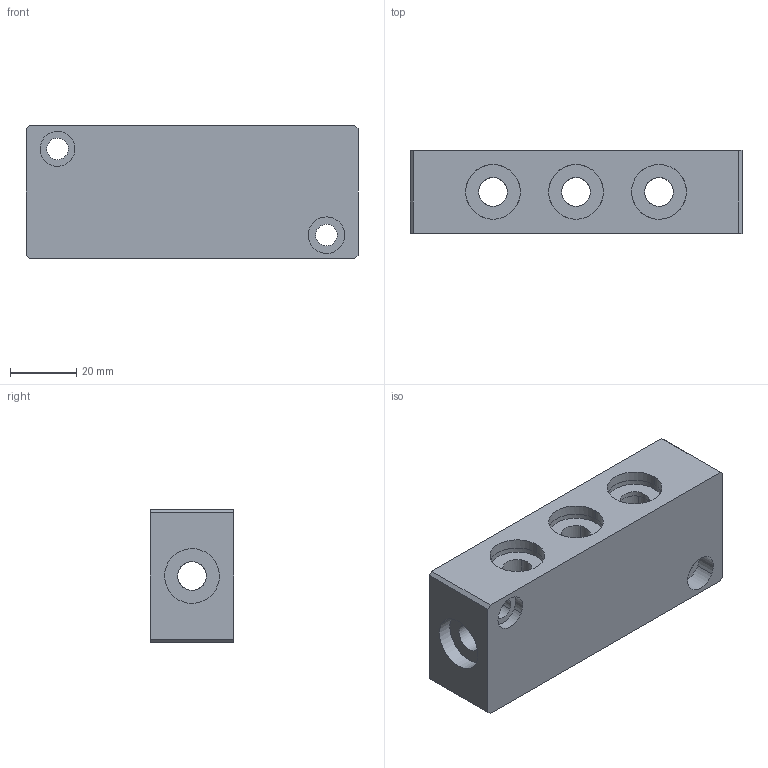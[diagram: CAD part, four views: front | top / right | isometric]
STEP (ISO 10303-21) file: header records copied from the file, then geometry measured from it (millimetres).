
FILE_DESCRIPTION(('CATIA V5 STEP Exchange'),'2;1');
FILE_NAME('W:\LIBRERIA TECAPRES®\FICHEROS CAD\BLOQUES DISTRIBUCION\BDF8.stp','2016-04-13T13:24:39+00:00',('none'),('none'),'CATIA Version 5 Release 17 (IN-10)','CATIA V5 STEP AP203','none');
FILE_SCHEMA(('CONFIG_CONTROL_DESIGN'));
Length unit declared in the file: millimetre
Products named in the file (1): BDF8
Bounding box: 100 x 25 x 40 mm (x, y, z)
Volume: 80440.6 mm3; surface area: 21459.6 mm2
Topology: 1 solids, 1 shells, 74 faces, 208 edges, 140 vertices
Faces by surface type: cylinder 54, plane 20
Entity records: 2571 total; most frequent: CARTESIAN_POINT 800, ORIENTED_EDGE 416, DIRECTION 242, EDGE_CURVE 208, VERTEX_POINT 140, AXIS2_PLACEMENT_3D 127, EDGE_LOOP 96, CIRCLE 89
